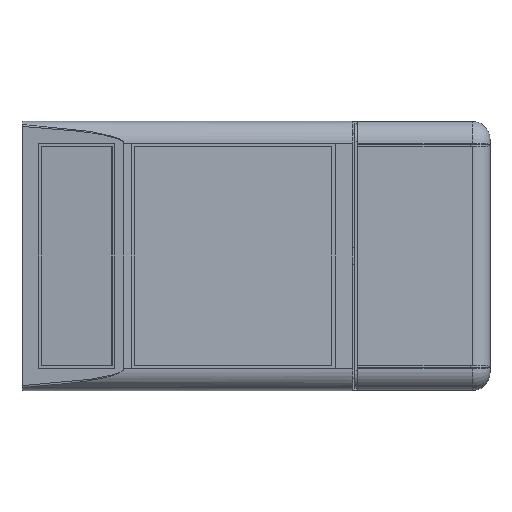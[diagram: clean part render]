
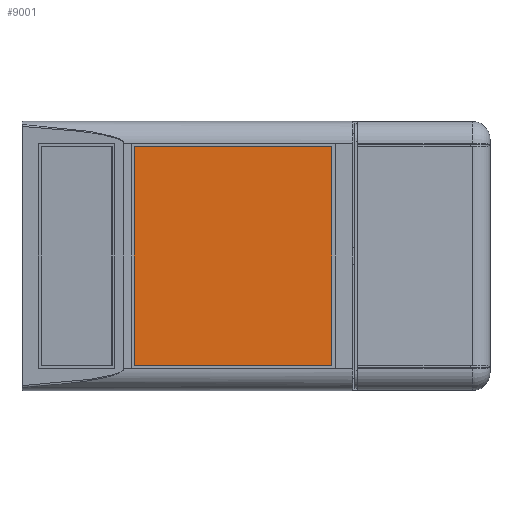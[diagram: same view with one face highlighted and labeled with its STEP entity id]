
A CAD part, front view. The second image highlights one B-rep face of the part: STEP entity #9001.
In plain terms, the highlighted planar face has unit normal (0, -1, 0).
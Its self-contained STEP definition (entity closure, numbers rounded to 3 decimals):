
#461 = ORIENTED_EDGE ( 'NONE', *, *, #4078, .T. ) ;
#911 = DIRECTION ( 'NONE',  ( 0., 0., -1. ) ) ;
#916 = VECTOR ( 'NONE', #15873, 1000. ) ;
#1302 = ORIENTED_EDGE ( 'NONE', *, *, #13945, .T. ) ;
#1679 = CARTESIAN_POINT ( 'NONE',  ( 0., -14.8, 0. ) ) ;
#1748 = VECTOR ( 'NONE', #6961, 1000. ) ;
#2496 = EDGE_LOOP ( 'NONE', ( #461, #4776, #1302, #3337 ) ) ;
#2501 = EDGE_CURVE ( 'NONE', #7484, #6852, #5586, .T. ) ;
#2778 = EDGE_CURVE ( 'NONE', #12425, #13343, #13692, .T. ) ;
#2939 = PLANE ( 'NONE',  #4579 ) ;
#2997 = CARTESIAN_POINT ( 'NONE',  ( 17.15, -14.8, 24.65 ) ) ;
#3054 = VECTOR ( 'NONE', #13902, 1000. ) ;
#3337 = ORIENTED_EDGE ( 'NONE', *, *, #2501, .T. ) ;
#4078 = EDGE_CURVE ( 'NONE', #6852, #12425, #13650, .T. ) ;
#4579 = AXIS2_PLACEMENT_3D ( 'NONE', #1679, #11312, #14805 ) ;
#4641 = CARTESIAN_POINT ( 'NONE',  ( -27.45, -14.8, 24.65 ) ) ;
#4776 = ORIENTED_EDGE ( 'NONE', *, *, #2778, .T. ) ;
#5462 = LINE ( 'NONE', #2997, #1748 ) ;
#5586 = LINE ( 'NONE', #15415, #3054 ) ;
#5636 = CARTESIAN_POINT ( 'NONE',  ( 17.15, -14.8, 24.65 ) ) ;
#6852 = VERTEX_POINT ( 'NONE', #13858 ) ;
#6961 = DIRECTION ( 'NONE',  ( 0., 0., 1. ) ) ;
#7072 = VECTOR ( 'NONE', #911, 1000. ) ;
#7484 = VERTEX_POINT ( 'NONE', #5636 ) ;
#9001 = ADVANCED_FACE ( 'NONE', ( #12550 ), #2939, .F. ) ;
#9343 = CARTESIAN_POINT ( 'NONE',  ( 17.15, -14.8, -24.65 ) ) ;
#11182 = CARTESIAN_POINT ( 'NONE',  ( -27.45, -14.8, -24.65 ) ) ;
#11312 = DIRECTION ( 'NONE',  ( 0., 1., 0. ) ) ;
#12273 = CARTESIAN_POINT ( 'NONE',  ( -27.45, -14.8, -24.65 ) ) ;
#12425 = VERTEX_POINT ( 'NONE', #11182 ) ;
#12550 = FACE_OUTER_BOUND ( 'NONE', #2496, .T. ) ;
#13343 = VERTEX_POINT ( 'NONE', #9343 ) ;
#13650 = LINE ( 'NONE', #4641, #7072 ) ;
#13692 = LINE ( 'NONE', #12273, #916 ) ;
#13858 = CARTESIAN_POINT ( 'NONE',  ( -27.45, -14.8, 24.65 ) ) ;
#13902 = DIRECTION ( 'NONE',  ( -1., 0., 0. ) ) ;
#13945 = EDGE_CURVE ( 'NONE', #13343, #7484, #5462, .T. ) ;
#14805 = DIRECTION ( 'NONE',  ( 0., 0., 1. ) ) ;
#15415 = CARTESIAN_POINT ( 'NONE',  ( -27.45, -14.8, 24.65 ) ) ;
#15873 = DIRECTION ( 'NONE',  ( 1., 0., 0. ) ) ;
